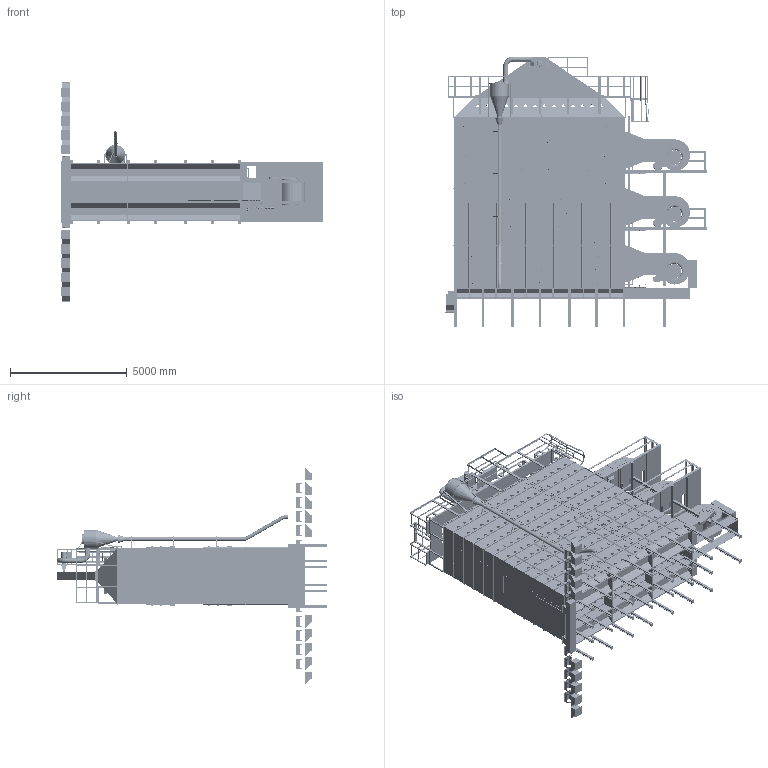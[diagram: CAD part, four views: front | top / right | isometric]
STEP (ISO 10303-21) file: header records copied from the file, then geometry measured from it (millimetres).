
FILE_DESCRIPTION(/* description */ ('PLAN AND ELEVATION VIEW FOR D24210 WITH ROOF & PRE-CLEANER'),/* implementation_level */ '2;1');
FILE_NAME(/* name */ 'C:\Engineering\Designs\Sales\Dryer\Workspaces\D24 All\D24210PC.stp',/* time_stamp */ '2025-01-07T09:38:33-06:00',/* author */ ('max.fleming'),/* organization */ (''),/* preprocessor_version */ 'ST-DEVELOPER v18.1',/* originating_system */ 'Autodesk Inventor 2022',/* authorisation */ '');
FILE_SCHEMA (('AUTOMOTIVE_DESIGN { 1 0 10303 214 3 1 1 }'));
Products named in the file (50): D24210PC; 24FT FRAME; 8FT MID FRAME; 8FT LHRH FRAME; 24FT ROOF GF; 8FTRoof GF MID; 8FTRoof GF LHRH; Tongue; Platform Support 1-T; 24FT BODY TIER; LH Body; MID Body; RH Body; LH Body_MIR2; MID Body_MIR1; RH Body_MIR2; Outside Splice; Trans & Blower; Screen Guard; Belt Shield; LP Fuel; Standard Size End Plenum Panels; Ladder 2' section; Platform; Stiffeners; 1 Tier Vertical Support; LP Inlet; 2401002; LP Middle Connection; F048484; F048470; F1715410; Liquid Propane Pipe; 8'' CROSS AUGER; 12'' CROSS DRAG; 24FT PRE CLEANER RH DIS; 24FT Pre Cleaner Grav Assy; Aspirator Blower CCW; Aspirator Blower; NEMA MOTOR 182T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
Assembly tree (194 placements, depth 4):
  D24210PC
    24FT FRAME
      8FT LHRH FRAME  x2
      8FT MID FRAME
    24FT ROOF GF
      8FTRoof GF LHRH  x2
      8FTRoof GF MID
    Tongue
    Platform Support 1-T
    24FT BODY TIER  x12
      LH Body
      MID Body
      RH Body
      LH Body_MIR2
      MID Body_MIR1
      RH Body_MIR2
      Outside Splice
    Trans & Blower  x3
    Screen Guard  x6
    Belt Shield  x3
    LP Fuel  x3
    Standard Size End Plenum Panels  x21
    Platform  x2
    Stiffeners  x72
    1 Tier Vertical Support  x14
    LP Inlet
    2401002
    LP Middle Connection
      F048484
      F048470
      F1715410
    Liquid Propane Pipe  x8
    24FT PRE CLEANER RH DIS
      24FT Pre Cleaner Grav Assy
      Aspirator Blower CCW
        Aspirator Blower
        NEMA MOTOR 182T
      24FT FULL CATWALK W PRE CLEANER MOUNTS
      Pre-Cleaner Cyclone
      24FT Aspirator 8in Pipe
    Ladder Cage
    6IN ELBOW  x2
    6in PIPE 60L  x5
    6IN HANGER  x4
    6in PIPE SLEEVE 11L
    PIPE SUPPORT  x3
  Ladder 2' section
  8'' CROSS AUGER
  12'' CROSS DRAG
  Leg Kit 24 24T 4'
Bounding box: 11201.4 x 11594.4 x 9423.4 mm (x, y, z)
Volume: 97690551086.3 mm3; surface area: 1430178997.3 mm2
Topology: 782 solids, 1018 shells, 58023 faces, 150483 edges, 96238 vertices
Faces by surface type: plane 27810, cylinder 16887, bspline 5624, cone 5033, torus 2396, sphere 273
Full cylindrical faces by diameter (mm): 1 x15, 1.651 x9, 1.753 x9, 1.778 x18, 2.019 x6, 2.108 x3, 2.286 x36, 2.489 x3, 2.54 x6, 3.091 x432, 3.175 x7, 3.251 x30, 3.306 x432, 3.522 x3, 3.658 x42, 3.8 x24, 4 x576, 4.039 x30, 4.166 x384, 4.191 x6, 4.229 x3, 4.267 x3, 4.369 x12, 4.445 x12, 4.701 x888, 4.762 x24, 4.851 x12, 4.928 x48, 5.283 x3, 5.527 x30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
Entity records: 825740 total; most frequent: CARTESIAN_POINT 351329, ORIENTED_EDGE 98898, DIRECTION 88888, EDGE_CURVE 49589, VERTEX_POINT 31773, AXIS2_PLACEMENT_3D 29818, LINE 29252, VECTOR 29252
